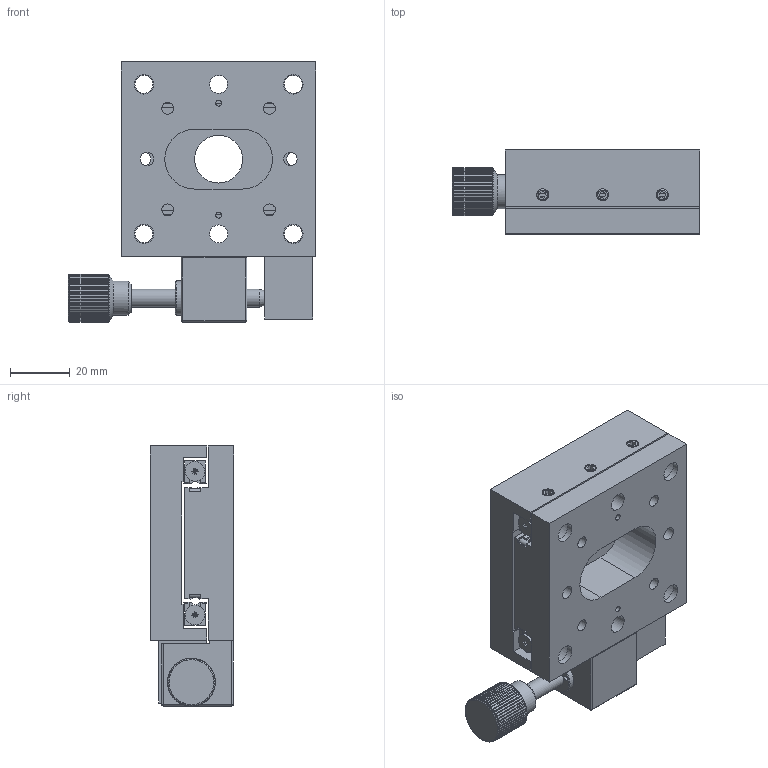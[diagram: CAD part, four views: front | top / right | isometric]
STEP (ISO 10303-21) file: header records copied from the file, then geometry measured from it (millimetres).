
FILE_DESCRIPTION (( 'STEP AP203' ), '1' );
FILE_NAME ('TS65HX-1A.step', '2017-01-10T09:19:36', ( '¦K¬P' ), ( '' ), 'SwSTEP 2.0', 'SolidWorks 2012', '' );
FILE_SCHEMA (( 'CONFIG_CONTROL_DESIGN' ));
Length unit declared in the file: millimetre
Products named in the file (1): TS65HX-1A
Bounding box: 82.8 x 28 x 87 mm (x, y, z)
Surface area: 40933.6 mm2 (no closed solid volume)
Topology: 0 solids, 36 shells, 510 faces, 1496 edges, 1008 vertices
Faces by surface type: plane 344, cylinder 139, cone 19, sphere 7, torus 1
Full cylindrical faces by diameter (mm): 1.7 x2, 2 x10, 3 x2, 4 x12, 4.5 x4, 5 x1, 6 x14, 6.5 x4, 6.6 x4, 8 x1, 10 x1, 11 x4, 11.4 x1, 11.5 x1, 16 x1
Entity records: 16910 total; most frequent: CARTESIAN_POINT 3939, DIRECTION 2528, ORIENTED_EDGE 2497, EDGE_CURVE 1380, VERTEX_POINT 983, AXIS2_PLACEMENT_3D 866, VECTOR 796, LINE 796
